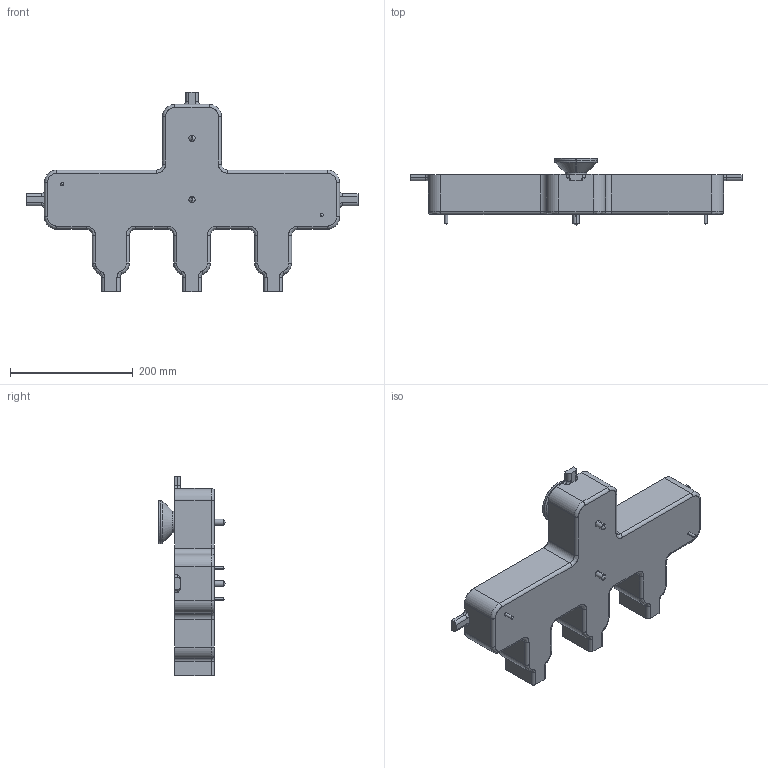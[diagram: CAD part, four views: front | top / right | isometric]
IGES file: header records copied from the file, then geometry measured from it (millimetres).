
Start section: SolidWorks IGES file using analytic representation for surfaces
Global section: file name: F:\CARTELLA CONDIVISA - 3D\01 - Piastre - 3D\Piastre Standard - Resistenza Sezione Quadrata 6x6\LF3-D02\Parte Multicorpo + Positivo Sede\CCLF3DQ-02T\SEDE CCLF3DQ-02T.IGS; native system: SolidWorks 2013; preprocessor: SolidWorks 2013; author: ws-20; date: 140129.152025; units: millimetre
Bounding box: 540 x 108.89 x 325 mm (x, y, z)
Surface area: 272907.3 mm2 (no closed solid volume)
Topology: 0 solids, 0 shells, 158 faces, 1465 edges, 1848 vertices
Faces by surface type: revolution 83, bspline 75
